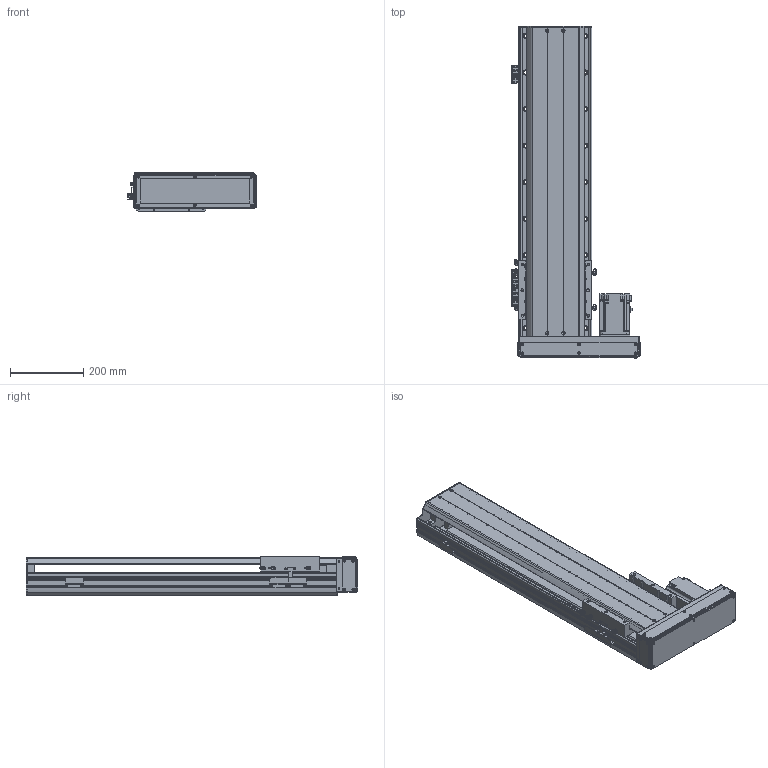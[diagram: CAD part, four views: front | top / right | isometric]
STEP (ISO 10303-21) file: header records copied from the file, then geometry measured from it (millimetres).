
FILE_DESCRIPTION(/* description */ ('MANUFACTURE'),/* implementation_level */ '2;1');
FILE_NAME(/* name */ '\\192.168.0.160\disk1\HAN SHIN Master\B-설계부문\C-표준\B-2024년\BC02-표준도면\+로봇 개선표준도면\표준 승인도 작업 폴더\3D\HG200\HG200병렬\우병렬\HG200-R70-N-0600-L10.stp',/* time_stamp */ '2024-02-23T17:40:53+09:00',/* author */ ('User'),/* organization */ (''),/* preprocessor_version */ 'ST-DEVELOPER v18.1',/* originating_system */ 'Autodesk Inventor 2022',/* authorisation */ 'LIP');
FILE_SCHEMA (('AUTOMOTIVE_DESIGN { 1 0 10303 214 3 1 1 }'));
Products named in the file (22): HG200-L70-N-0500-R10; HR200 S BASE-개선; HR180 FRONT BLOCK; HR180 FRONT BLOCK_1; HR120 STOPPER; HR200 S UPCOVER; HR200 TABLE (W,N); 750W MOTOR PLATE; HG200 750W LR MOTOR PLATE-사출; hg-kr73_; 화살표; HR160 400W LR BELT COVER; HR200 ACRYL COVER -1; HR200 ACRYL COVER -1_1; HR200 ACRYL COVER -1_2; HG200 BOTTOM COVER; HR200 SENSOR DOG; SENSOR BRK(EE-SX674A); EE_SX674A; hsr_ftht_A-M6F_grease_nipple_joint; NIPPLE CAP(신규); HR200 FRONT COVER
Assembly tree (36 placements, depth 2):
  HG200-L70-N-0500-R10
    HR200 S BASE-개선
    HR180 FRONT BLOCK
    HR180 FRONT BLOCK_1
    HR120 STOPPER  x2
    HR200 S UPCOVER
    HR200 TABLE (W,N)
    750W MOTOR PLATE
    HG200 750W LR MOTOR PLATE-사출
    hg-kr73_
    화살표  x2
    hsr_ftht_A-M6F_grease_nipple_joint  x5
    NIPPLE CAP(신규)  x5
    HR160 400W LR BELT COVER
    HR200 ACRYL COVER -1
    HR200 ACRYL COVER -1_1
    HR200 ACRYL COVER -1_2  x2
    HG200 BOTTOM COVER
    HR200 SENSOR DOG
    EE_SX674A  x3
    SENSOR BRK(EE-SX674A)  x3
    HR200 FRONT COVER
Bounding box: 351 x 908 x 109 mm (x, y, z)
Volume: 6540182.6 mm3; surface area: 1777917 mm2
Topology: 36 solids, 36 shells, 3881 faces, 10934 edges, 7214 vertices
Faces by surface type: plane 2686, cylinder 866, cone 235, sphere 44, torus 30, bspline 20
Full cylindrical faces by diameter (mm): 2.459 x50, 3 x10, 3.242 x18, 3.4 x20, 3.5 x6, 4 x6, 4.134 x10, 4.5 x14, 4.917 x54, 5 x20, 5.5 x5, 5.6 x5, 5.9 x4, 6 x11, 6.5 x10, 6.6 x28, 6.647 x28, 7 x4, 7.6 x4, 8 x4, 9 x30, 9.5 x1, 11 x28, 14 x18, 19 x1, 25 x1, 27 x1, 30 x1, 32 x1, 38 x1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
Entity records: 110378 total; most frequent: CARTESIAN_POINT 21378, ORIENTED_EDGE 18508, DIRECTION 17334, EDGE_CURVE 9254, LINE 7418, VECTOR 7418, VERTEX_POINT 6182, AXIS2_PLACEMENT_3D 4958
